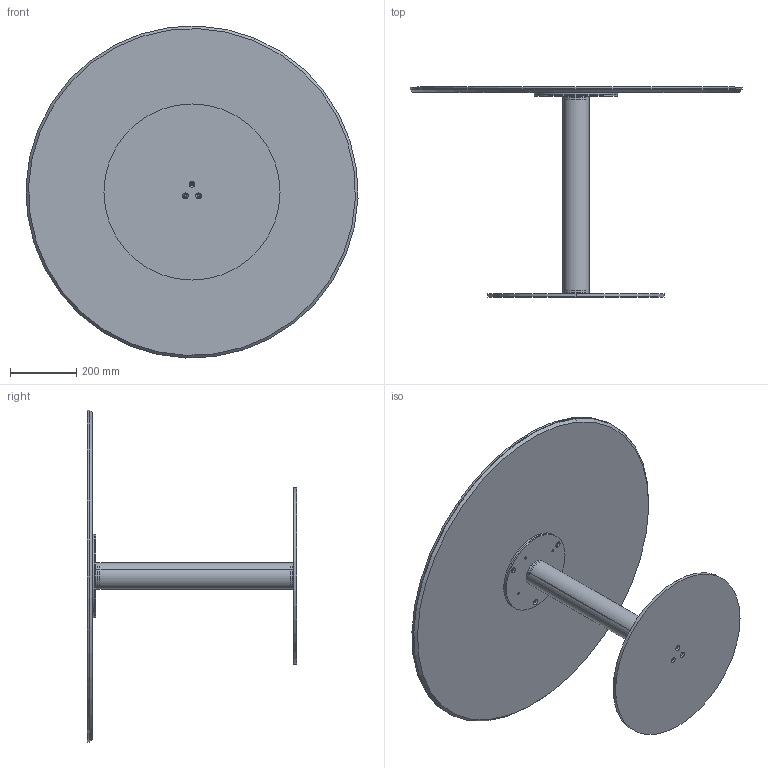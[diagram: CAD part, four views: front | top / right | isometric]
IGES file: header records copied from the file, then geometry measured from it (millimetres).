
Start section: SolidWorks IGES file using analytic representation for surfaces
Global section: file name: Y:\eforma\TECNICO\SOLIDWORKS\E-FORMA\5-TAVOLINI BISTRO\CILINDRO BISTRÒ H63\02 parts\CB35C.IGS; native system: SolidWorks 2022; preprocessor: SolidWorks 2022; author: eforma.tech; date: 240808.104124; units: millimetre
Bounding box: 999.3 x 632 x 999.3 mm (x, y, z)
Volume: 15548032 mm3; surface area: 4158342.3 mm2
Topology: 10 solids, 10 shells, 171 faces, 404 edges, 252 vertices
Faces by surface type: revolution 136, plane 32, bspline 3
